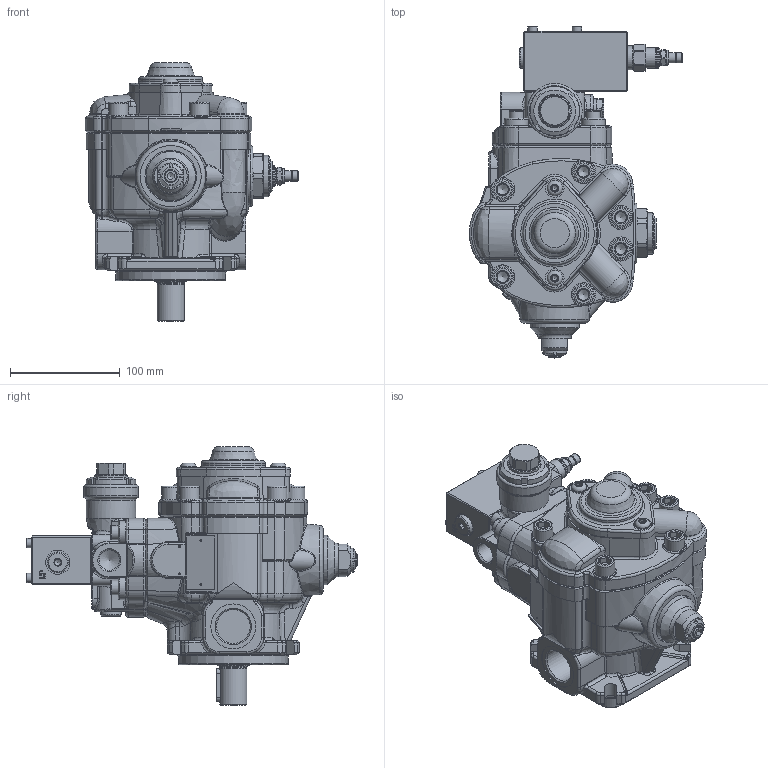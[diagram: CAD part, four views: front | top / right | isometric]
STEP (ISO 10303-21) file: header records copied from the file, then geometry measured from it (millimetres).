
FILE_DESCRIPTION(/* description */ (''),/* implementation_level */ '2;1');
FILE_NAME(/* name */ 'W:\Tecnico\Archivio\Berarma\Dimensioni Pompe\3D Export\Montaggio 3D semplificato\PLP-PHP 1\PHP 1 -A PCS003.stp',/* time_stamp */ '2018-10-09T15:26:16+02:00',/* author */ ('marcop'),/* organization */ (''),/* preprocessor_version */ 'ST-DEVELOPER v17',/* originating_system */ 'Autodesk Inventor 2018',/* authorisation */ '');
FILE_SCHEMA (('AUTOMOTIVE_DESIGN { 1 0 10303 214 3 1 1 }'));
Products named in the file (1): PLP-PHP 1_Shrinkwrap_1
Bounding box: 194.5 x 302.7 x 236 mm (x, y, z)
Volume: 2593347.4 mm3; surface area: 304047.6 mm2
Topology: 2 solids, 2 shells, 2201 faces, 5702 edges, 3574 vertices
Faces by surface type: plane 830, cylinder 545, bspline 363, torus 241, cone 199, sphere 23
Full cylindrical faces by diameter (mm): 0.9 x3, 1.7 x4, 2.5 x3, 4 x1, 4.134 x2, 5.5 x2, 6 x2, 6.5 x3, 7.2 x1, 7.671 x2, 8 x1, 8.5 x2, 8.566 x2, 9.347 x2, 9.5 x1, 10 x1, 11.445 x1, 12 x4, 13 x4, 13.487 x1, 13.5 x1, 13.767 x2, 14 x5, 14.224 x1, 14.63 x1, 15 x1, 15.5 x1, 16 x2, 17 x2, 17.374 x1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
Entity records: 81781 total; most frequent: CARTESIAN_POINT 28279, ORIENTED_EDGE 11306, DIRECTION 10096, EDGE_CURVE 5653, AXIS2_PLACEMENT_3D 3968, VERTEX_POINT 3574, EDGE_LOOP 2340, STYLED_ITEM 2203
